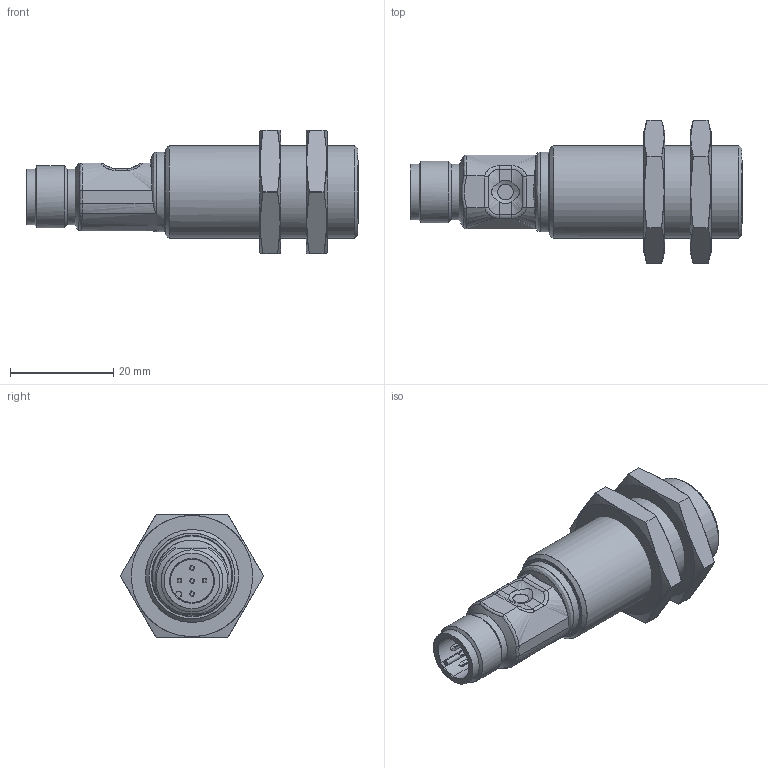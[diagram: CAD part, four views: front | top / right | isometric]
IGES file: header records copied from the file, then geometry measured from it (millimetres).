
Start section: C
Global section: file name: UR18.xxx.2-xxxx.9SF.igs; native system: By Siemens PLM Incorporated; preprocessor: XPlus GENERIC/IGES 23.0.61; author: Author; organization: Title; date: 20211124.103111; units: millimetre
Bounding box: 64.3 x 27.71 x 24 mm (x, y, z)
Surface area: 6162.5 mm2 (no closed solid volume)
Topology: 0 solids, 0 shells, 190 faces, 1072 edges, 1072 vertices
Faces by surface type: bspline 190
